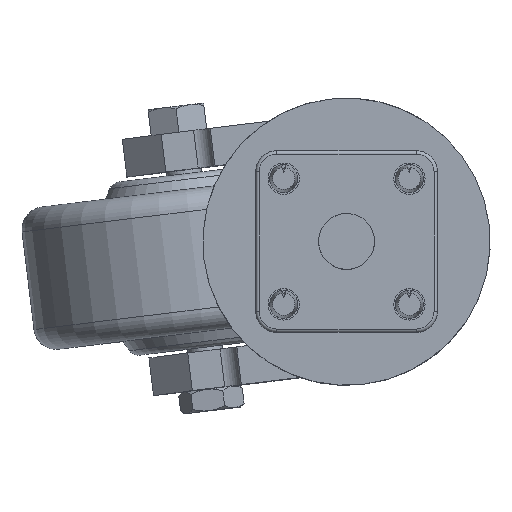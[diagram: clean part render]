
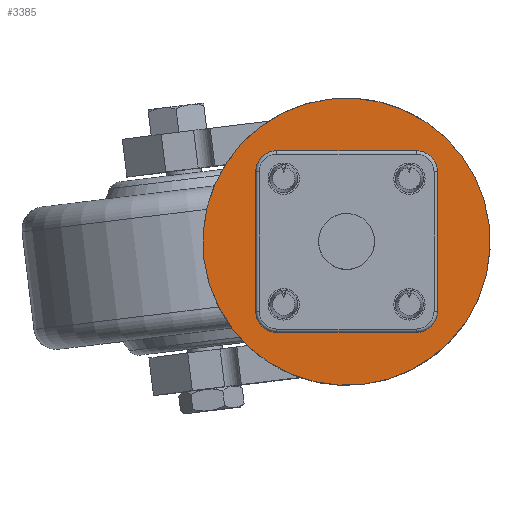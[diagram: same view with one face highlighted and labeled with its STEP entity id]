
A CAD part, top view. The second image highlights one B-rep face of the part: STEP entity #3385.
In plain terms, the highlighted planar face has unit normal (0, 0, 1) as drawn and (0, 1, 0) by its records, which use the part's own axes.
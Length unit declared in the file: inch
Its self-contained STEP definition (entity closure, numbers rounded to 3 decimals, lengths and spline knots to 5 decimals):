
#73 = CIRCLE ( 'NONE', #3793, 0.25 ) ;
#77 = CARTESIAN_POINT ( 'NONE',  ( 0., 0.375, 0. ) ) ;
#242 = CARTESIAN_POINT ( 'NONE',  ( 0., 0.375, 0.25 ) ) ;
#244 = ORIENTED_EDGE ( 'NONE', *, *, #4245, .F. ) ;
#285 = CIRCLE ( 'NONE', #1141, 0.25 ) ;
#554 = VERTEX_POINT ( 'NONE', #5206 ) ;
#562 = FACE_OUTER_BOUND ( 'NONE', #6460, .T. ) ;
#723 = VERTEX_POINT ( 'NONE', #2298 ) ;
#868 = EDGE_LOOP ( 'NONE', ( #244, #4852 ) ) ;
#1049 = DIRECTION ( 'NONE',  ( 0., 1., 0. ) ) ;
#1141 = AXIS2_PLACEMENT_3D ( 'NONE', #5648, #1049, #3079 ) ;
#1337 = ORIENTED_EDGE ( 'NONE', *, *, #6312, .T. ) ;
#1393 = DIRECTION ( 'NONE',  ( 0., 0., 1. ) ) ;
#1734 = CIRCLE ( 'NONE', #5494, 1.285 ) ;
#1818 = DIRECTION ( 'NONE',  ( 0., 1., 0. ) ) ;
#1999 = VERTEX_POINT ( 'NONE', #3717 ) ;
#2102 = DIRECTION ( 'NONE',  ( 0., 1., 0. ) ) ;
#2298 = CARTESIAN_POINT ( 'NONE',  ( 0., 0.375, 1.285 ) ) ;
#2359 = CARTESIAN_POINT ( 'NONE',  ( 0., 0.375, 0. ) ) ;
#2484 = EDGE_CURVE ( 'NONE', #6571, #554, #73, .T. ) ;
#2598 = FACE_BOUND ( 'NONE', #868, .T. ) ;
#3079 = DIRECTION ( 'NONE',  ( 0., 0., 1. ) ) ;
#3385 = ADVANCED_FACE ( 'NONE', ( #562, #2598 ), #4649, .T. ) ;
#3568 = AXIS2_PLACEMENT_3D ( 'NONE', #2359, #4411, #6458 ) ;
#3619 = EDGE_CURVE ( 'NONE', #1999, #723, #6479, .T. ) ;
#3717 = CARTESIAN_POINT ( 'NONE',  ( 0., 0.375, -1.285 ) ) ;
#3793 = AXIS2_PLACEMENT_3D ( 'NONE', #3936, #5982, #1393 ) ;
#3860 = DIRECTION ( 'NONE',  ( 0., 0., 1. ) ) ;
#3936 = CARTESIAN_POINT ( 'NONE',  ( 0., 0.375, 0. ) ) ;
#4151 = DIRECTION ( 'NONE',  ( 0., 0., 1. ) ) ;
#4245 = EDGE_CURVE ( 'NONE', #554, #6571, #285, .T. ) ;
#4411 = DIRECTION ( 'NONE',  ( 0., 1., 0. ) ) ;
#4649 = PLANE ( 'NONE',  #5198 ) ;
#4852 = ORIENTED_EDGE ( 'NONE', *, *, #2484, .F. ) ;
#5198 = AXIS2_PLACEMENT_3D ( 'NONE', #77, #2102, #4151 ) ;
#5206 = CARTESIAN_POINT ( 'NONE',  ( 0., 0.375, -0.25 ) ) ;
#5494 = AXIS2_PLACEMENT_3D ( 'NONE', #6421, #1818, #3860 ) ;
#5648 = CARTESIAN_POINT ( 'NONE',  ( 0., 0.375, 0. ) ) ;
#5663 = ORIENTED_EDGE ( 'NONE', *, *, #3619, .T. ) ;
#5982 = DIRECTION ( 'NONE',  ( 0., 1., 0. ) ) ;
#6312 = EDGE_CURVE ( 'NONE', #723, #1999, #1734, .T. ) ;
#6421 = CARTESIAN_POINT ( 'NONE',  ( 0., 0.375, 0. ) ) ;
#6458 = DIRECTION ( 'NONE',  ( 0., 0., 1. ) ) ;
#6460 = EDGE_LOOP ( 'NONE', ( #5663, #1337 ) ) ;
#6479 = CIRCLE ( 'NONE', #3568, 1.285 ) ;
#6571 = VERTEX_POINT ( 'NONE', #242 ) ;
